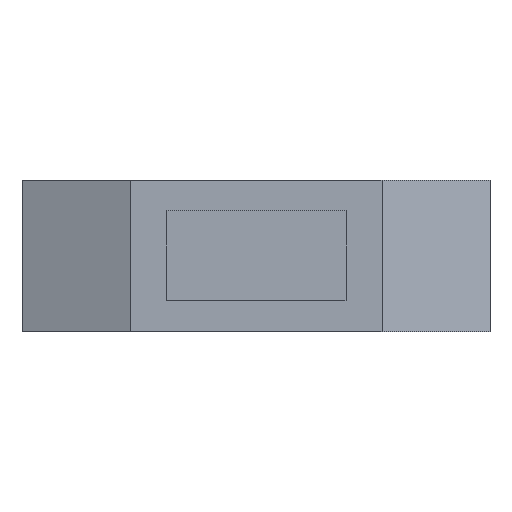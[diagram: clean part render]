
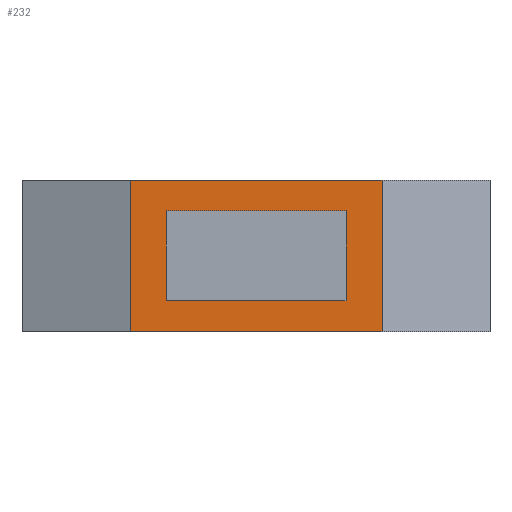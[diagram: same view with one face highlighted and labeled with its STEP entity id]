
A CAD part, top view. The second image highlights one B-rep face of the part: STEP entity #232.
In plain terms, the highlighted planar face has unit normal (0, 0, 1) as drawn and (0, 1, 0) by its records, which use the part's own axes.
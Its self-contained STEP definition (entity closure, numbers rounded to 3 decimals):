
#108 = VERTEX_POINT ( 'NONE', #846 ) ;
#111 = EDGE_CURVE ( 'NONE', #108, #115, #845, .T. ) ;
#115 = VERTEX_POINT ( 'NONE', #837 ) ;
#198 = VERTEX_POINT ( 'NONE', #1016 ) ;
#216 = ORIENTED_EDGE ( 'NONE', *, *, #222, .F. ) ;
#217 = EDGE_CURVE ( 'NONE', #224, #220, #1053, .T. ) ;
#218 = EDGE_CURVE ( 'NONE', #220, #228, #1049, .T. ) ;
#219 = ORIENTED_EDGE ( 'NONE', *, *, #217, .F. ) ;
#220 = VERTEX_POINT ( 'NONE', #1045 ) ;
#221 = EDGE_LOOP ( 'NONE', ( #234, #270, #272, #273 ) ) ;
#222 = EDGE_CURVE ( 'NONE', #227, #224, #1044, .T. ) ;
#223 = ORIENTED_EDGE ( 'NONE', *, *, #218, .F. ) ;
#224 = VERTEX_POINT ( 'NONE', #1040 ) ;
#225 = EDGE_CURVE ( 'NONE', #228, #227, #1039, .T. ) ;
#226 = ORIENTED_EDGE ( 'NONE', *, *, #225, .F. ) ;
#227 = VERTEX_POINT ( 'NONE', #1035 ) ;
#228 = VERTEX_POINT ( 'NONE', #1034 ) ;
#231 = EDGE_LOOP ( 'NONE', ( #226, #223, #219, #216 ) ) ;
#232 = ADVANCED_FACE ( 'NONE', ( #1033, #1027 ), #1026, .F. ) ;
#234 = ORIENTED_EDGE ( 'NONE', *, *, #111, .T. ) ;
#270 = ORIENTED_EDGE ( 'NONE', *, *, #271, .F. ) ;
#271 = EDGE_CURVE ( 'NONE', #441, #115, #1098, .T. ) ;
#272 = ORIENTED_EDGE ( 'NONE', *, *, #440, .F. ) ;
#273 = ORIENTED_EDGE ( 'NONE', *, *, #274, .F. ) ;
#274 = EDGE_CURVE ( 'NONE', #108, #198, #1094, .T. ) ;
#440 = EDGE_CURVE ( 'NONE', #198, #441, #1394, .T. ) ;
#441 = VERTEX_POINT ( 'NONE', #1390 ) ;
#837 = CARTESIAN_POINT ( 'NONE',  ( -7., 37., 0. ) ) ;
#842 = DIRECTION ( 'NONE',  ( -1., 0., 0. ) ) ;
#843 = VECTOR ( 'NONE', #842, 1000. ) ;
#844 = CARTESIAN_POINT ( 'NONE',  ( -13., 37., 0. ) ) ;
#845 = LINE ( 'NONE', #844, #843 ) ;
#846 = CARTESIAN_POINT ( 'NONE',  ( 7., 37., 0. ) ) ;
#1016 = CARTESIAN_POINT ( 'NONE',  ( 7., 37., 8.4 ) ) ;
#1022 = DIRECTION ( 'NONE',  ( 0., 0., -1. ) ) ;
#1023 = DIRECTION ( 'NONE',  ( 0., -1., 0. ) ) ;
#1024 = CARTESIAN_POINT ( 'NONE',  ( -13., 37., 8.4 ) ) ;
#1025 = AXIS2_PLACEMENT_3D ( 'NONE', #1024, #1023, #1022 ) ;
#1026 = PLANE ( 'NONE',  #1025 ) ;
#1027 = FACE_OUTER_BOUND ( 'NONE', #221, .T. ) ;
#1033 = FACE_BOUND ( 'NONE', #231, .T. ) ;
#1034 = CARTESIAN_POINT ( 'NONE',  ( 5., 37., 1.7 ) ) ;
#1035 = CARTESIAN_POINT ( 'NONE',  ( -5., 37., 1.7 ) ) ;
#1036 = DIRECTION ( 'NONE',  ( -1., 0., 0. ) ) ;
#1037 = VECTOR ( 'NONE', #1036, 1000. ) ;
#1038 = CARTESIAN_POINT ( 'NONE',  ( 5., 37., 1.7 ) ) ;
#1039 = LINE ( 'NONE', #1038, #1037 ) ;
#1040 = CARTESIAN_POINT ( 'NONE',  ( -5., 37., 6.7 ) ) ;
#1041 = DIRECTION ( 'NONE',  ( 0., 0., 1. ) ) ;
#1042 = VECTOR ( 'NONE', #1041, 1000. ) ;
#1043 = CARTESIAN_POINT ( 'NONE',  ( -5., 37., 1.7 ) ) ;
#1044 = LINE ( 'NONE', #1043, #1042 ) ;
#1045 = CARTESIAN_POINT ( 'NONE',  ( 5., 37., 6.7 ) ) ;
#1046 = DIRECTION ( 'NONE',  ( 0., 0., -1. ) ) ;
#1047 = VECTOR ( 'NONE', #1046, 1000. ) ;
#1048 = CARTESIAN_POINT ( 'NONE',  ( 5., 37., 1.7 ) ) ;
#1049 = LINE ( 'NONE', #1048, #1047 ) ;
#1050 = DIRECTION ( 'NONE',  ( 1., 0., 0. ) ) ;
#1051 = VECTOR ( 'NONE', #1050, 1000. ) ;
#1052 = CARTESIAN_POINT ( 'NONE',  ( 5., 37., 6.7 ) ) ;
#1053 = LINE ( 'NONE', #1052, #1051 ) ;
#1091 = DIRECTION ( 'NONE',  ( 0., 0., 1. ) ) ;
#1092 = VECTOR ( 'NONE', #1091, 1000. ) ;
#1093 = CARTESIAN_POINT ( 'NONE',  ( 7., 37., 0. ) ) ;
#1094 = LINE ( 'NONE', #1093, #1092 ) ;
#1095 = DIRECTION ( 'NONE',  ( 0., 0., -1. ) ) ;
#1096 = VECTOR ( 'NONE', #1095, 1000. ) ;
#1097 = CARTESIAN_POINT ( 'NONE',  ( -7., 37., 8.4 ) ) ;
#1098 = LINE ( 'NONE', #1097, #1096 ) ;
#1390 = CARTESIAN_POINT ( 'NONE',  ( -7., 37., 8.4 ) ) ;
#1391 = DIRECTION ( 'NONE',  ( -1., 0., 0. ) ) ;
#1392 = VECTOR ( 'NONE', #1391, 1000. ) ;
#1393 = CARTESIAN_POINT ( 'NONE',  ( -13., 37., 8.4 ) ) ;
#1394 = LINE ( 'NONE', #1393, #1392 ) ;
